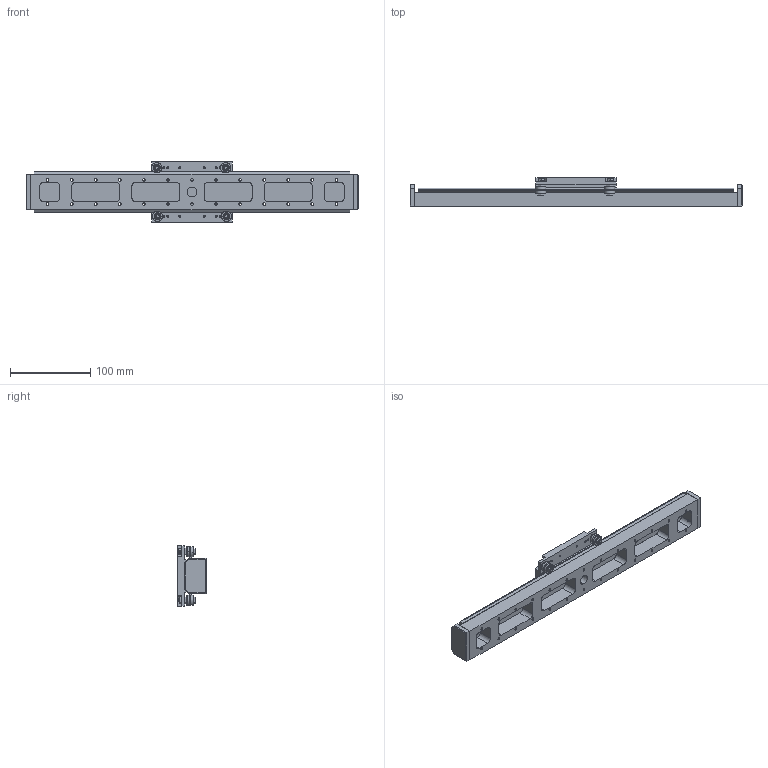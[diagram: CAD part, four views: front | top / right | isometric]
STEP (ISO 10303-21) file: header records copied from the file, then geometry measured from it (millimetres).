
FILE_DESCRIPTION (( 'STEP AP214' ), '1' );
FILE_NAME ('VSM23-P-300 - Simplified.STEP', '2024-06-21T09:17:39', ( '' ), ( '' ), 'SwSTEP 2.0', 'SolidWorks 2024', '' );
FILE_SCHEMA (( 'AUTOMOTIVE_DESIGN' ));
Length unit declared in the file: millimetre
Products named in the file (16): P0301.040-A2_P0301.040-A2; M4 Washer; Eccentric shaft_Simplified; VSM23-P Passive Carriage Assy_Simplified; Concentric Bearing Assy_Simplified; Outer_Simplified; Concentric shaft_Simplified; VSM23-P-300 Base plate_Simplified; Inner_Simplified; VSM23-P-300 - Simplified; VSM23-P Passive Carriage_Simplified; Ball; Bearing_Simplified; VSM23-P End Plate_Simplified; Eccentric Bearing Assy_Simplified; VSM23-X-300 V-slide_Simplified
Assembly tree (34 placements, depth 5):
  VSM23-P-300 - Simplified
    VSM23-P-300 Base plate_Simplified
    VSM23-X-300 V-slide_Simplified
    VSM23-P Passive Carriage Assy_Simplified
      VSM23-P Passive Carriage_Simplified
      Eccentric Bearing Assy_Simplified  x2
        Eccentric shaft_Simplified
        Bearing_Simplified
          Outer_Simplified
          Inner_Simplified
          Ball  x8
        P0301.040-A2_P0301.040-A2
      Concentric Bearing Assy_Simplified  x2
        Concentric shaft_Simplified
        Bearing_Simplified
          Outer_Simplified
          Inner_Simplified
          Ball  x8
        P0301.040-A2_P0301.040-A2
      M4 Washer  x2
      P0301.040-A2_P0301.040-A2  x4
    VSM23-P End Plate_Simplified  x2
Bounding box: 414 x 36 x 75 mm (x, y, z)
Volume: 364772.6 mm3; surface area: 135417.6 mm2
Topology: 99 solids, 99 shells, 1041 faces, 2619 edges, 1694 vertices
Faces by surface type: cylinder 443, plane 270, sphere 128, cone 120, torus 80
Entity records: 16086 total; most frequent: CARTESIAN_POINT 2953, DIRECTION 2847, ORIENTED_EDGE 2454, EDGE_CURVE 1227, AXIS2_PLACEMENT_3D 1154, VERTEX_POINT 804, EDGE_LOOP 705, CIRCLE 640
